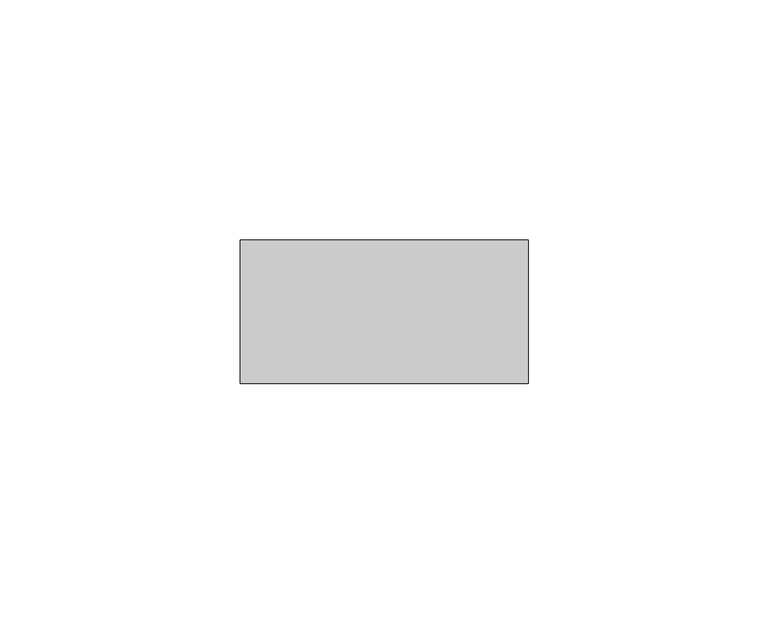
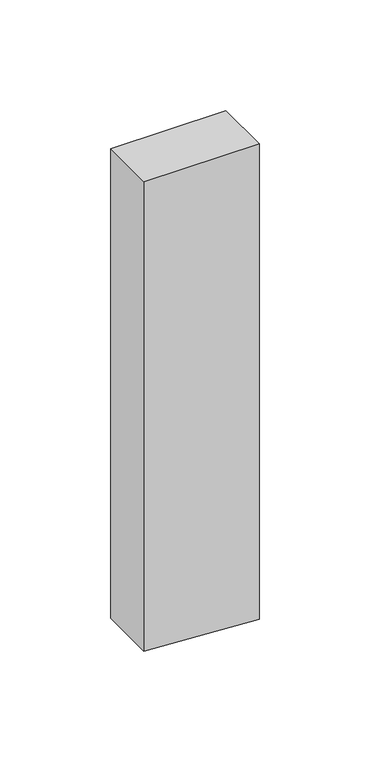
"""IFC4 building model written with IfcOpenShell, lengths in millimetres: member geometry, Прямоугольный импост : Квадрат 30 мм."""

from ifc_helpers import new_model, si_unit, frame, origin, place, context, project, spatial, polyline, outline, extrude, source, transform, mapped, element, save


def member_011cad9e(model_context):
    return source(origin(), model_context, "Body", "SweptSolid", [
        extrude(outline(polyline([(0.0, 30.0), (0.0, -30.0), (-258.6599316, -30.0), (-260.4679086, 2.7556035), (-261.9716891, 30.0), (0.0, 30.0)])), frame((0.0, -15.0, 0.0), z_axis=(0.0, 1.0, 0.0), x_axis=(0.0, 0.0, 1.0)), (0.0, 0.0, 1.0), 30.0),
    ])


if __name__ == "__main__":
    model = new_model("IFC4")
    model_context = context("Model", 3, world=origin())
    ifc_project = project(units=[si_unit("LENGTHUNIT", "METRE", prefix="MILLI")], contexts=[model_context])
    site = spatial("IfcSite", under=ifc_project)
    building = spatial("IfcBuilding", under=site)
    placement = place(None, origin())
    member_shape = member_011cad9e(model_context)
    element("IfcMember", 1, ObjectType="Прямоугольный импост : Квадрат 30 мм", at=placement, inside=building, context=model_context, shape_type="MappedRepresentation", body=[
        mapped(member_shape, transform((0.0, 0.0, 0.0), x_axis=(1.0, 0.0, 0.0), y_axis=(0.0, 1.0, 0.0), z_axis=(0.0, 0.0, 1.0))),
    ])
    save(model, "model.ifc")
